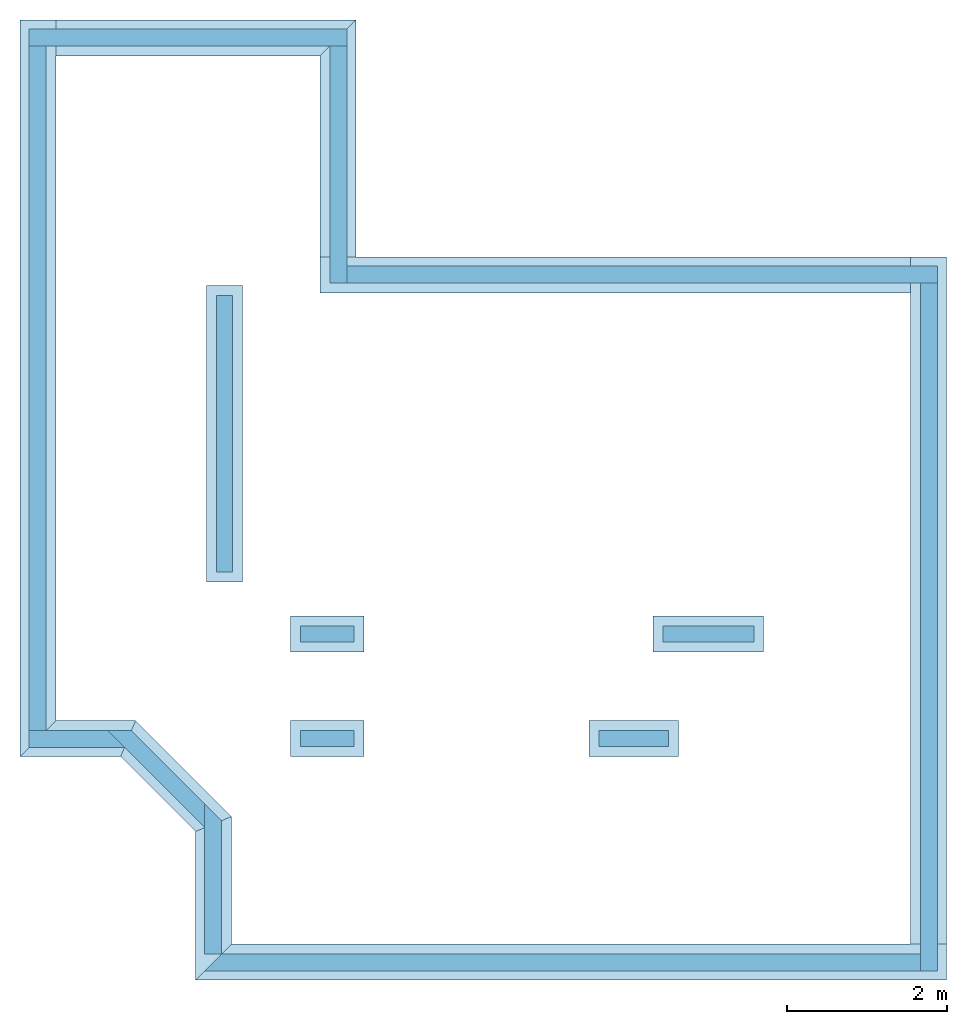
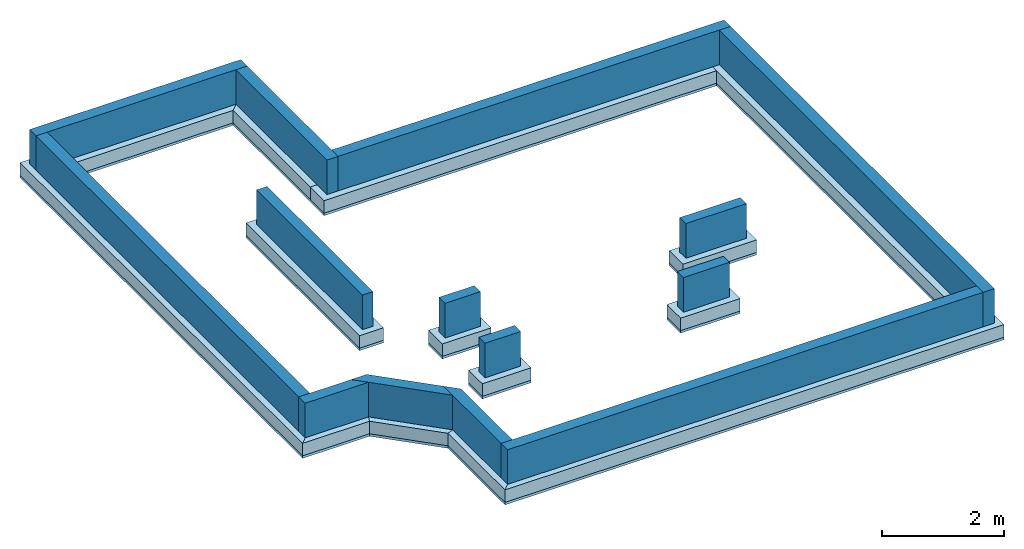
# One storey, part 1 of 2: 14 footings, 14 walls, 6 slabs, 1 opening.
"""IFC2X3 building model written with IfcOpenShell, lengths in centimetres."""

from ifc_helpers import new_model, entity, si_unit, converted_unit, derived_unit, direction, frame, frame_2d, origin, place, context, subcontext, project, spatial, polyline, rectangle, outline, extrude, faceted_brep, material, layer, layer_set, layer_usage, type_object, element, save


model = new_model("IFC2X3")

# Units and contexts
model_context = context("Model", 3, precision=0.001, world=origin(), true_north=direction((6.123031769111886e-17, 1.0)))
body_context = subcontext(model_context, "Body", "Model", "MODEL_VIEW")
ifc_project = project(units=[si_unit("LENGTHUNIT", "METRE", prefix="CENTI"), si_unit("AREAUNIT", "SQUARE_METRE"), si_unit("VOLUMEUNIT", "CUBIC_METRE"), converted_unit("PLANEANGLEUNIT", "DEGREE", entity("IfcRatioMeasure", 0.017453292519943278), si_unit("PLANEANGLEUNIT", "RADIAN"), dimensions=[0, 0, 0, 0, 0, 0, 0]), si_unit("MASSUNIT", "GRAM", prefix="KILO"), derived_unit("MASSDENSITYUNIT", [(si_unit("MASSUNIT", "GRAM", prefix="KILO"), 1), (si_unit("LENGTHUNIT", "METRE"), -3)]), derived_unit("MOMENTOFINERTIAUNIT", [(si_unit("LENGTHUNIT", "METRE"), 4)]), si_unit("TIMEUNIT", "SECOND"), si_unit("FREQUENCYUNIT", "HERTZ"), si_unit("THERMODYNAMICTEMPERATUREUNIT", "DEGREE_CELSIUS"), derived_unit("THERMALTRANSMITTANCEUNIT", [(si_unit("MASSUNIT", "GRAM", prefix="KILO"), 1), (si_unit("THERMODYNAMICTEMPERATUREUNIT", "KELVIN"), -1), (si_unit("TIMEUNIT", "SECOND"), -3)]), derived_unit("VOLUMETRICFLOWRATEUNIT", [(si_unit("LENGTHUNIT", "METRE"), 3), (si_unit("TIMEUNIT", "SECOND"), -1)]), derived_unit("MASSFLOWRATEUNIT", [(si_unit("MASSUNIT", "GRAM", prefix="KILO"), 1), (si_unit("TIMEUNIT", "SECOND"), -1)]), derived_unit("ROTATIONALFREQUENCYUNIT", [(si_unit("TIMEUNIT", "SECOND"), -1)]), si_unit("ELECTRICCURRENTUNIT", "AMPERE"), si_unit("ELECTRICVOLTAGEUNIT", "VOLT"), si_unit("POWERUNIT", "WATT"), si_unit("FORCEUNIT", "NEWTON", prefix="KILO"), si_unit("ILLUMINANCEUNIT", "LUX"), si_unit("LUMINOUSFLUXUNIT", "LUMEN"), si_unit("LUMINOUSINTENSITYUNIT", "CANDELA"), derived_unit("USERDEFINED", [(si_unit("MASSUNIT", "GRAM", prefix="KILO"), -1), (si_unit("LENGTHUNIT", "METRE"), -2), (si_unit("TIMEUNIT", "SECOND"), 3), (si_unit("LUMINOUSFLUXUNIT", "LUMEN"), 1)]), derived_unit("SOUNDPOWERUNIT", [(si_unit("MASSUNIT", "GRAM", prefix="KILO"), 1), (si_unit("LENGTHUNIT", "METRE"), 2), (si_unit("TIMEUNIT", "SECOND"), -3)]), derived_unit("SOUNDPRESSUREUNIT", [(si_unit("MASSUNIT", "GRAM", prefix="KILO"), 1), (si_unit("LENGTHUNIT", "METRE"), -1), (si_unit("TIMEUNIT", "SECOND"), -2)]), derived_unit("LINEARVELOCITYUNIT", [(si_unit("LENGTHUNIT", "METRE"), 1), (si_unit("TIMEUNIT", "SECOND"), -1)]), si_unit("PRESSUREUNIT", "PASCAL"), derived_unit("USERDEFINED", [(si_unit("LENGTHUNIT", "METRE"), -2), (si_unit("MASSUNIT", "GRAM", prefix="KILO"), 1), (si_unit("TIMEUNIT", "SECOND"), -2)]), derived_unit("LINEARFORCEUNIT", [(si_unit("MASSUNIT", "GRAM", prefix="KILO"), 1), (si_unit("LENGTHUNIT", "METRE"), 1), (si_unit("TIMEUNIT", "SECOND"), -2), (si_unit("LENGTHUNIT", "METRE"), -1)]), derived_unit("PLANARFORCEUNIT", [(si_unit("MASSUNIT", "GRAM", prefix="KILO"), 1), (si_unit("LENGTHUNIT", "METRE"), 1), (si_unit("TIMEUNIT", "SECOND"), -2), (si_unit("LENGTHUNIT", "METRE"), -2)])], contexts=[model_context])

# Site, building, storey
site_placement = place(None, frame((1412.1772603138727, -701.9923171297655, 0.0)))
site = spatial("IfcSite", under=ifc_project, at=site_placement, Name="Default", CompositionType="ELEMENT")
building_placement = place(site_placement, origin())
building = spatial("IfcBuilding", under=site, at=building_placement, CompositionType="ELEMENT")
storey_placement = place(building_placement, frame((0.0, 0.0, -98.0)))
storey = spatial("IfcBuildingStorey", under=building, at=storey_placement, Name="0_Fondation", CompositionType="ELEMENT", Elevation=-98.0)

# Footings
ifc_material_1 = material(Name="Maçonnerie - Béton")
footing_1_placement = place(storey_placement, origin())
element("IfcFooting", 1, at=footing_1_placement, inside=storey, material=ifc_material_1, Name="Semelle filante:Semelle 45 x 25", ObjectType="Semelle filante:Semelle 45 x 25", PredefinedType="STRIP_FOOTING", context=body_context, shape_type="SweptSolid", body=[
    extrude(outline(polyline([(-376.4000000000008, -18.0), (-331.3999999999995, -18.0), (519.6000000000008, -18.0), (564.6000000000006, 27.0), (-376.40000000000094, 27.0), (-376.4000000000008, -18.0)])), frame((-1016.0772603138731, -144.50768287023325, -25.0), z_axis=(0.0, 0.0, 1.0), x_axis=(-1.0, 0.0, 0.0)), (0.0, 0.0, 1.0), 25.0),
])
footing_2_placement = place(storey_placement, origin())
element("IfcFooting", 2, at=footing_2_placement, inside=storey, material=ifc_material_1, Name="Semelle filante:Semelle 45 x 25", ObjectType="Semelle filante:Semelle 45 x 25", PredefinedType="STRIP_FOOTING", context=body_context, shape_type="SweptSolid", body=[
    extrude(rectangle(XDim=44.99999999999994, YDim=860.9999999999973, at=frame_2d((4.500000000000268, -77.09999999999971), x_axis=(1.0, 0.0))), frame((-666.6772603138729, 381.0923171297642, -25.0)), (0.0, 0.0, 1.0), 25.0),
])
footing_3_placement = place(storey_placement, origin())
element("IfcFooting", 3, at=footing_3_placement, inside=storey, material=ifc_material_1, Name="Semelle filante:Semelle 45 x 25", ObjectType="Semelle filante:Semelle 45 x 25", PredefinedType="STRIP_FOOTING", context=body_context, shape_type="SweptSolid", body=[
    extrude(rectangle(XDim=44.99999999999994, YDim=740.0, at=frame_2d((-4.500000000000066, -65.00000000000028), x_axis=(1.0, 0.0))), frame((-1119.6772603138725, 716.4923171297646, -25.0), z_axis=(0.0, 0.0, 1.0), x_axis=(0.0, 1.0, 0.0)), (0.0, 0.0, 1.0), 25.0),
])
footing_4_placement = place(storey_placement, origin())
element("IfcFooting", 4, at=footing_4_placement, inside=storey, material=ifc_material_1, Name="Semelle filante:Semelle 45 x 25", ObjectType="Semelle filante:Semelle 45 x 25", PredefinedType="STRIP_FOOTING", context=body_context, shape_type="SweptSolid", body=[
    extrude(outline(polyline([(-92.97413408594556, -61.1543289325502), (-29.33452377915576, -61.154328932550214), (83.65432893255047, 51.834523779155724), (38.65432893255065, 70.4741340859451), (-92.97413408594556, -61.1543289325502)])), frame((-1558.1772603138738, -62.52240149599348, -25.0), z_axis=(0.0, 0.0, 1.0), x_axis=(0.7071067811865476, 0.7071067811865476, 0.0)), (0.0, 0.0, 1.0), 24.999999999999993),
])
footing_5_placement = place(storey_placement, origin())
element("IfcFooting", 5, at=footing_5_placement, inside=storey, material=ifc_material_1, Name="Semelle filante:Semelle 45 x 25", ObjectType="Semelle filante:Semelle 45 x 25", PredefinedType="STRIP_FOOTING", context=body_context, shape_type="SweptSolid", body=[
    extrude(outline(polyline([(-53.315781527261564, -69.9203494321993), (-4.608132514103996, -69.9203494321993), (46.182711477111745, 52.699594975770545), (11.74120256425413, 87.14110388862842), (-53.315781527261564, -69.9203494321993)])), frame((-1611.6919789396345, 77.4775985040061, -25.0), z_axis=(0.0, 0.0, 1.0), x_axis=(-0.38268343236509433, -0.9238795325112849, 0.0)), (0.0, 0.0, 1.0), 24.999999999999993),
])
footing_6_placement = place(storey_placement, origin())
element("IfcFooting", 6, at=footing_6_placement, inside=storey, material=ifc_material_1, Name="Semelle filante:Semelle 45 x 25", ObjectType="Semelle filante:Semelle 45 x 25", PredefinedType="STRIP_FOOTING", context=body_context, shape_type="SweptSolid", body=[
    extrude(outline(polyline([(8.12132034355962, -39.94112549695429), (71.76093065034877, -39.9411254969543), (-17.441125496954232, 49.26093065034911), (-62.441125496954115, 30.621320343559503), (8.12132034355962, -39.94112549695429)])), frame((-1721.6919789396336, 130.99231712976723, -25.0), z_axis=(0.0, 0.0, 1.0), x_axis=(-0.7071067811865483, -0.7071067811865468, 0.0)), (0.0, 0.0, 1.0), 24.999999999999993),
])
footing_7_placement = place(storey_placement, origin())
element("IfcFooting", 7, at=footing_7_placement, inside=storey, material=ifc_material_1, Name="Semelle filante:Semelle 45 x 25", ObjectType="Semelle filante:Semelle 45 x 25", PredefinedType="STRIP_FOOTING", context=body_context, shape_type="SweptSolid", body=[
    extrude(outline(polyline([(-410.6876185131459, -372.503852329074), (-347.04800820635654, -372.503852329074), (241.9719405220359, 216.516096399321), (273.7917456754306, 248.33590155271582), (241.9719405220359, 280.1557067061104), (-410.6876185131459, -372.503852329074)])), frame((-1773.6772603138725, 662.2923171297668, -25.0), z_axis=(0.0, 0.0, 1.0), x_axis=(0.7071067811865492, 0.7071067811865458, 0.0)), (0.0, 0.0, 1.0), 25.0),
])
footing_8_placement = place(storey_placement, origin())
element("IfcFooting", 8, at=footing_8_placement, inside=storey, material=ifc_material_1, Name="Semelle filante:Semelle 45 x 25", ObjectType="Semelle filante:Semelle 45 x 25", PredefinedType="STRIP_FOOTING", context=body_context, shape_type="SweptSolid", body=[
    extrude(outline(polyline([(93.16131842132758, -124.98112357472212), (156.80092872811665, -124.98112357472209), (-109.071220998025, 140.89102615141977), (-140.89102615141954, 109.07122099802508), (93.16131842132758, -124.98112357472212)])), frame((-1578.927260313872, 1008.9923171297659, -25.0), z_axis=(0.0, 0.0, 1.0), x_axis=(0.7071067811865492, 0.7071067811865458, 0.0)), (0.0, 0.0, 1.0), 25.0),
])
footing_9_placement = place(storey_placement, origin())
element("IfcFooting", 9, at=footing_9_placement, inside=storey, material=ifc_material_1, Name="Semelle filante:Semelle 45 x 25", ObjectType="Semelle filante:Semelle 45 x 25", PredefinedType="STRIP_FOOTING", context=body_context, shape_type="SweptSolid", body=[
    extrude(outline(polyline([(-137.25000000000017, -22.499999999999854), (159.74999999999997, -22.499999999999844), (114.74999999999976, 22.500000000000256), (-137.2500000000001, 22.500000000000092), (-137.25000000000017, -22.499999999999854)])), frame((-1402.1772603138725, 871.7423171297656, -25.0), z_axis=(0.0, 0.0, 1.0), x_axis=(0.0, 1.0, 0.0)), (0.0, 0.0, 1.0), 25.0),
])
footing_10_placement = place(storey_placement, origin())
element("IfcFooting", 10, at=footing_10_placement, inside=storey, material=ifc_material_1, Name="Semelle filante:Semelle 45 x 25 refend", ObjectType="Semelle filante:Semelle 45 x 25 refend", PredefinedType="STRIP_FOOTING", context=body_context, shape_type="SweptSolid", body=[
    extrude(rectangle(XDim=91.99999999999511, YDim=45.0, at=frame_2d((0.0, -1.2434497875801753e-14), x_axis=(1.0, 0.0))), frame((-1415.6772603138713, 261.99231712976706, -25.0), z_axis=(0.0, 0.0, 1.0), x_axis=(-1.0, 0.0, 0.0)), (0.0, 0.0, 1.0), 25.0),
])
footing_11_placement = place(storey_placement, origin())
element("IfcFooting", 11, at=footing_11_placement, inside=storey, material=ifc_material_1, Name="Semelle filante:Semelle 45 x 25 refend", ObjectType="Semelle filante:Semelle 45 x 25 refend", PredefinedType="STRIP_FOOTING", context=body_context, shape_type="SweptSolid", body=[
    extrude(rectangle(XDim=91.99999999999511, YDim=45.0, at=frame_2d((0.0, 1.4210854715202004e-14), x_axis=(1.0, 0.0))), frame((-1415.6772603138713, 130.99231712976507, -25.0), z_axis=(0.0, 0.0, 1.0), x_axis=(-1.0, 0.0, 0.0)), (0.0, 0.0, 1.0), 25.0),
])
footing_12_placement = place(storey_placement, origin())
element("IfcFooting", 12, at=footing_12_placement, inside=storey, material=ifc_material_1, Name="Semelle filante:Semelle 45 x 25 refend", ObjectType="Semelle filante:Semelle 45 x 25 refend", PredefinedType="STRIP_FOOTING", context=body_context, shape_type="SweptSolid", body=[
    extrude(rectangle(XDim=111.9999999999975, YDim=45.0, at=frame_2d((0.0, 1.4210854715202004e-14), x_axis=(1.0, 0.0))), frame((-1031.677260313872, 130.99231712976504, -25.0), z_axis=(0.0, 0.0, 1.0), x_axis=(-1.0, 0.0, 0.0)), (0.0, 0.0, 1.0), 25.0),
])
footing_13_placement = place(storey_placement, origin())
element("IfcFooting", 13, at=footing_13_placement, inside=storey, material=ifc_material_1, Name="Semelle filante:Semelle 45 x 25 refend", ObjectType="Semelle filante:Semelle 45 x 25 refend", PredefinedType="STRIP_FOOTING", context=body_context, shape_type="SweptSolid", body=[
    extrude(rectangle(XDim=139.00000000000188, YDim=45.0, at=frame_2d((4.973799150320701e-14, 1.4210854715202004e-14), x_axis=(1.0, 0.0))), frame((-938.1772603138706, 261.9923171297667, -25.0), z_axis=(0.0, 0.0, 1.0), x_axis=(-1.0, 0.0, 0.0)), (0.0, 0.0, 1.0), 25.0),
])
footing_14_placement = place(storey_placement, origin())
element("IfcFooting", 14, at=footing_14_placement, inside=storey, material=ifc_material_1, Name="Semelle filante:Semelle 45 x 25 refend", ObjectType="Semelle filante:Semelle 45 x 25 refend", PredefinedType="STRIP_FOOTING", context=body_context, shape_type="SweptSolid", body=[
    extrude(rectangle(XDim=370.99999999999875, YDim=44.99999999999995, at=frame_2d((-8.526512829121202e-14, -2.1671553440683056e-13), x_axis=(1.0, 0.0))), frame((-1544.1772603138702, 512.9923171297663, -25.0), z_axis=(0.0, 0.0, 1.0), x_axis=(0.0, -1.0, 0.0)), (0.0, 0.0, 1.0), 25.0),
])

# Slab, opening
ifc_material_2 = material(Name="Maçonnerie - Béton(2)")
ifc_layer_1 = layer(ifc_material_2, 5.0)
ifc_layer_set_1 = layer_set([ifc_layer_1], Name="Radier:Béton de propreté 5cm")
ifc_layer_usage_1 = layer_usage(ifc_layer_set_1, "AXIS3", "POSITIVE", 0.0)
slab_type_1 = type_object("IfcSlabType", Name="Radier:Béton de propreté 5cm", PredefinedType="BASESLAB")
slab_1_placement = place(storey_placement, frame((-1800.6772603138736, -171.50768287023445, -30.0)))
slab_1 = element("IfcSlab", 15, at=slab_1_placement, inside=storey, type_object=slab_type_1, material=ifc_layer_usage_1, Name="Radier:Béton de propreté 5cm", ObjectType="Radier:Béton de propreté 5cm", PredefinedType="BASESLAB", context=body_context, shape_type="SweptSolid", body=[
    extrude(outline(polyline([(159.49999999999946, 601.4999999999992), (159.49999999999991, 304.4999999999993), (-580.5000000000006, 304.49999999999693), (-580.4999999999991, -601.5000000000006), (360.50000000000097, -601.4999999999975), (360.5000000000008, -415.34924240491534), (454.34924240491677, -321.49999999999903), (580.5000000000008, -321.4999999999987), (580.4999999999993, 601.5000000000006), (159.49999999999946, 601.4999999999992)])), frame((580.5000000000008, 601.5000000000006, 5.0), z_axis=(0.0, 0.0, -1.0), x_axis=(-1.0, 0.0, 0.0)), (0.0, 0.0, 1.0), 5.0),
])
opening_placement = place(slab_1_placement, frame((416.53226310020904, 553.6433742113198, 5.0)))
element("IfcOpeningElement", 16, at=opening_placement, cuts=slab_1, Name="Radier:Béton de propreté 5cm:2", ObjectType="Opening", context=body_context, shape_type="SweptSolid", body=[
    extrude(outline(polyline([(-604.3566257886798, -40.53226310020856), (-604.3566257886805, -371.53226310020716), (228.6433742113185, -371.5322631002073), (228.64337421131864, -271.7418951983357), (348.8530063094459, -151.53226310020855), (508.64337421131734, -151.53226310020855), (508.64337421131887, 699.4677368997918), (-307.3566257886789, 699.4677368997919), (-307.3566257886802, -40.53226310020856), (-604.3566257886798, -40.53226310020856)])), frame((0.0, 0.0, 0.0), z_axis=(0.0, 0.0, 1.0), x_axis=(0.0, -1.0, 0.0)), (0.0, 0.0, -1.0), 5.0),
])

# Slabs
slab_type_2 = type_object("IfcSlabType", Name="Radier:Béton de propreté 5cm", PredefinedType="BASESLAB")
slab_2_placement = place(storey_placement, frame((-1800.6772603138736, -171.50768287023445, -30.0)))
element("IfcSlab", 17, at=slab_2_placement, inside=storey, type_object=slab_type_2, material=ifc_layer_usage_1, Name="Radier:Béton de propreté 5cm:2", ObjectType="Radier:Béton de propreté 5cm", PredefinedType="BASESLAB", context=body_context, shape_type="SweptSolid", body=[
    extrude(rectangle(XDim=370.99999999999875, YDim=44.999999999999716, at=frame_2d((324.0, 83.0), x_axis=(0.0, -1.0))), frame((580.5000000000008, 601.5000000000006, 5.0), z_axis=(0.0, 0.0, -1.0), x_axis=(-1.0, 0.0, 0.0)), (0.0, 0.0, 1.0), 5.0),
])
slab_type_3 = type_object("IfcSlabType", Name="Radier:Béton de propreté 5cm", PredefinedType="BASESLAB")
slab_3_placement = place(storey_placement, frame((-1800.6772603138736, -171.50768287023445, -30.0)))
element("IfcSlab", 18, at=slab_3_placement, inside=storey, type_object=slab_type_3, material=ifc_layer_usage_1, Name="Radier:Béton de propreté 5cm:3", ObjectType="Radier:Béton de propreté 5cm", PredefinedType="BASESLAB", context=body_context, shape_type="SweptSolid", body=[
    extrude(rectangle(XDim=45.00000000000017, YDim=91.99999999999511, at=frame_2d((195.49999999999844, -168.0), x_axis=(0.0, -1.0))), frame((580.5000000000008, 601.5000000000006, 5.0), z_axis=(0.0, 0.0, -1.0), x_axis=(-1.0, 0.0, 0.0)), (0.0, 0.0, 1.0), 5.0),
])
slab_type_4 = type_object("IfcSlabType", Name="Radier:Béton de propreté 5cm", PredefinedType="BASESLAB")
slab_4_placement = place(storey_placement, frame((-1800.6772603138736, -171.50768287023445, -30.0)))
element("IfcSlab", 19, at=slab_4_placement, inside=storey, type_object=slab_type_4, material=ifc_layer_usage_1, Name="Radier:Béton de propreté 5cm:4", ObjectType="Radier:Béton de propreté 5cm", PredefinedType="BASESLAB", context=body_context, shape_type="SweptSolid", body=[
    extrude(rectangle(XDim=45.000000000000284, YDim=91.99999999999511, at=frame_2d((195.49999999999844, -299.0), x_axis=(0.0, -1.0))), frame((580.5000000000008, 601.5000000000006, 5.0), z_axis=(0.0, 0.0, -1.0), x_axis=(-1.0, 0.0, 0.0)), (0.0, 0.0, 1.0), 5.0),
])
slab_type_5 = type_object("IfcSlabType", Name="Radier:Béton de propreté 5cm", PredefinedType="BASESLAB")
slab_5_placement = place(storey_placement, frame((-1800.6772603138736, -171.50768287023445, -30.0)))
element("IfcSlab", 20, at=slab_5_placement, inside=storey, type_object=slab_type_5, material=ifc_layer_usage_1, Name="Radier:Béton de propreté 5cm:5", ObjectType="Radier:Béton de propreté 5cm", PredefinedType="BASESLAB", context=body_context, shape_type="SweptSolid", body=[
    extrude(rectangle(XDim=45.00000000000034, YDim=111.9999999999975, at=frame_2d((-188.50000000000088, -299.0), x_axis=(0.0, -1.0))), frame((580.5000000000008, 601.5000000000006, 5.0), z_axis=(0.0, 0.0, -1.0), x_axis=(-1.0, 0.0, 0.0)), (0.0, 0.0, 1.0), 5.0),
])
slab_type_6 = type_object("IfcSlabType", Name="Radier:Béton de propreté 5cm", PredefinedType="BASESLAB", material=ifc_layer_set_1)
slab_6_placement = place(storey_placement, frame((-1800.6772603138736, -171.50768287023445, -30.0)))
element("IfcSlab", 21, at=slab_6_placement, inside=storey, type_object=slab_type_6, material=ifc_layer_usage_1, Name="Radier:Béton de propreté 5cm:6", ObjectType="Radier:Béton de propreté 5cm", PredefinedType="BASESLAB", context=body_context, shape_type="SweptSolid", body=[
    extrude(rectangle(XDim=45.0000000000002, YDim=139.00000000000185, at=frame_2d((-282.0, -168.0), x_axis=(0.0, -1.0))), frame((580.5000000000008, 601.5000000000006, 5.0), z_axis=(0.0, 0.0, -1.0), x_axis=(-1.0, 0.0, 0.0)), (0.0, 0.0, 1.0), 5.0),
])

# Walls
ifc_material_3 = material(Name="Protection humidité")
ifc_layer_2 = layer(ifc_material_3, 1.0)
ifc_material_4 = material(Name="Blocs de maçonnerie en béton")
ifc_layer_3 = layer(ifc_material_4, 20.0)
ifc_layer_set_2 = layer_set([ifc_layer_2, ifc_layer_3], Name="Mur de base:Mur de soubassement")
wall_type_1 = type_object("IfcWallType", Name="Mur de base:Mur de soubassement", PredefinedType="STANDARD", material=ifc_layer_set_2)
wall_1_placement = place(storey_placement, frame((-1789.1772603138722, 1009.4923171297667, 0.0)))
element("IfcWall", 22, at=wall_1_placement, inside=storey, type_object=wall_type_1, Name="Mur de base:Mur de soubassement", ObjectType="Mur de base:Mur de soubassement", context=body_context, shape_type="Brep", body=[
    faceted_brep([(0.0, -10.499999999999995, 0.0), (21.0, -10.499999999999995, 0.0), (377.0, -10.499999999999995, 0.0), (398.0, -10.499999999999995, 0.0), (398.0, -10.499999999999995, 69.0), (0.0, -10.499999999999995, 69.0), (398.0, 10.499999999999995, 0.0), (0.0, 10.499999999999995, 0.0), (0.0, 10.499999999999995, 69.0), (398.0, 10.499999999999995, 69.0), (0.0, 9.500000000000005, 0.0), (398.0, 9.500000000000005, 0.0)], [[[0, 1, 2, 3, 4, 5]], [[6, 7, 8, 9]], [[9, 8, 5, 4]], [[1, 0, 10, 11, 3, 2]], [[9, 4, 3, 11, 6]], [[0, 5, 8, 7, 10]], [[7, 6, 11, 10]]]),
])
wall_2_placement = place(storey_placement, frame((-1401.6772603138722, 1018.9923171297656, 0.0), z_axis=(0.0, 0.0, 1.0), x_axis=(0.0, -1.0, 0.0)))
element("IfcWall", 23, at=wall_2_placement, inside=storey, type_object=wall_type_1, Name="Mur de base:Mur de soubassement", ObjectType="Mur de base:Mur de soubassement", context=body_context, shape_type="Brep", body=[
    faceted_brep([(20.0, -10.499999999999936, 0.0), (317.0, -10.499999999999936, 0.0), (317.0, -10.499999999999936, 69.0), (20.0, -10.499999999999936, 69.0), (317.0, 10.500000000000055, 0.0), (296.0, 10.500000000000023, 0.0), (20.0, 10.500000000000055, 0.0), (20.0, 10.500000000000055, 69.0), (317.0, 10.500000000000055, 69.0), (20.0, 9.500000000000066, 0.0), (317.0, 9.500000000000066, 0.0)], [[[0, 1, 2, 3]], [[4, 5, 6, 7, 8]], [[3, 2, 8, 7]], [[1, 0, 9, 10]], [[0, 3, 7, 6, 9]], [[5, 4, 10, 9, 6]], [[2, 1, 10, 4, 8]]]),
])
wall_3_placement = place(storey_placement, frame((-1391.1772603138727, 712.4923171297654, 0.0)))
element("IfcWall", 24, at=wall_3_placement, inside=storey, type_object=wall_type_1, Name="Mur de base:Mur de soubassement", ObjectType="Mur de base:Mur de soubassement", context=body_context, shape_type="Brep", body=[
    faceted_brep([(0.0, -10.499999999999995, 0.0), (719.0, -10.499999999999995, 0.0), (740.0, -10.499999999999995, 0.0), (740.0, -10.499999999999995, 69.0), (0.0, -10.499999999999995, 69.0), (740.0, 10.499999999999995, 0.0), (0.0, 10.499999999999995, 0.0), (0.0, 10.499999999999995, 69.0), (740.0, 10.499999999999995, 69.0), (0.0, 9.500000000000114, 0.0), (740.0, 9.500000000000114, 0.0)], [[[0, 1, 2, 3, 4]], [[5, 6, 7, 8]], [[8, 7, 4, 3]], [[1, 0, 9, 10, 2]], [[0, 4, 7, 6, 9]], [[6, 5, 10, 9]], [[8, 3, 2, 10, 5]]]),
])
wall_4_placement = place(storey_placement, frame((-661.6772603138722, 721.992317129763, 0.0), z_axis=(0.0, 0.0, 1.0), x_axis=(0.0, -1.0, 0.0)))
element("IfcWall", 25, at=wall_4_placement, inside=storey, type_object=wall_type_1, Name="Mur de base:Mur de soubassement", ObjectType="Mur de base:Mur de soubassement", context=body_context, shape_type="Brep", body=[
    faceted_brep([(20.0, -10.499999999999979, 0.0), (861.0, -10.499999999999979, 0.0), (882.0, -10.499999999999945, 0.0), (882.0, -10.499999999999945, 69.0), (20.0, -10.499999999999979, 69.0), (882.0, 10.500000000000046, 0.0), (20.0, 10.500000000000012, 0.0), (20.0, 10.500000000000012, 69.0), (882.0, 10.500000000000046, 69.0), (20.0, 9.500000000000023, 0.0), (882.0, 9.499999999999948, 0.0)], [[[0, 1, 2, 3, 4]], [[5, 6, 7, 8]], [[8, 7, 4, 3]], [[1, 0, 9, 10, 2]], [[0, 4, 7, 6, 9]], [[6, 5, 10, 9]], [[8, 3, 2, 10, 5]]]),
])
wall_5_placement = place(storey_placement, frame((-652.1772603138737, -149.50768287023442, 0.0), z_axis=(0.0, 0.0, 1.0), x_axis=(-1.0, 0.0, 0.0)))
element("IfcWall", 26, at=wall_5_placement, inside=storey, type_object=wall_type_1, Name="Mur de base:Mur de soubassement", ObjectType="Mur de base:Mur de soubassement", context=body_context, shape_type="Brep", body=[
    faceted_brep([(20.0, -10.499999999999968, 0.0), (896.0, -10.499999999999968, 0.0), (917.0, -10.499999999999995, 0.0), (917.0, -10.499999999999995, 69.0), (20.0, -10.499999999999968, 69.0), (917.0, 10.499999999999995, 0.0), (20.0, 10.500000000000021, 0.0), (20.0, 10.500000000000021, 69.0), (917.0, 10.499999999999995, 69.0), (20.0, 9.500000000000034, 0.0), (917.0, 9.500000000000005, 0.0)], [[[0, 1, 2, 3, 4]], [[5, 6, 7, 8]], [[8, 7, 4, 3]], [[1, 0, 9, 10, 2]], [[0, 4, 7, 6, 9]], [[6, 5, 10, 9]], [[8, 3, 2, 10, 5]]]),
])
wall_6_placement = place(storey_placement, frame((-1558.6772603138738, -159.00768287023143, 0.0), z_axis=(0.0, 0.0, 1.0), x_axis=(0.0, 1.0, 0.0)))
element("IfcWall", 27, at=wall_6_placement, inside=storey, type_object=wall_type_1, Name="Mur de base:Mur de soubassement", ObjectType="Mur de base:Mur de soubassement", context=body_context, shape_type="Brep", body=[
    faceted_brep([(20.0, -10.499999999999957, 0.0), (187.11269837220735, -10.499999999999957, 0.0), (187.11269837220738, -10.499999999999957, 69.0), (20.0, -10.499999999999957, 69.0), (208.1126983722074, 10.500000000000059, 0.0), (178.4142135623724, 10.50000000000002, 0.0), (20.0, 10.500000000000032, 0.0), (20.0, 10.500000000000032, 69.0), (208.1126983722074, 10.500000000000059, 69.0), (20.0, 9.500000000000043, 0.0), (207.1126983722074, 9.50000000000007, 0.0)], [[[0, 1, 2, 3]], [[4, 5, 6, 7, 8]], [[3, 2, 8, 7]], [[1, 0, 9, 10]], [[0, 3, 7, 6, 9]], [[5, 4, 10, 9, 6]], [[2, 1, 10, 4, 8]]]),
])
wall_7_placement = place(storey_placement, frame((-1561.752639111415, 26.831151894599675, 0.0), z_axis=(0.0, 0.0, 1.0), x_axis=(-0.7071067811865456, 0.7071067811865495, 0.0)))
element("IfcWall", 28, at=wall_7_placement, inside=storey, type_object=wall_type_1, Name="Mur de base:Mur de soubassement", ObjectType="Mur de base:Mur de soubassement", context=body_context, shape_type="Brep", body=[
    faceted_brep([(21.0, -10.499999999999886, 0.0), (150.94826817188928, -10.49999999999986, 0.0), (150.94826817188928, -10.49999999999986, 69.0), (21.0, -10.49999999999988, 69.0), (171.9482681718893, 10.50000000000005, 0.0), (142.2497833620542, 10.500000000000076, 0.0), (0.0, 10.500000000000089, 0.0), (0.0, 10.500000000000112, 69.0), (171.9482681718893, 10.500000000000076, 69.0), (1.0, 9.500000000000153, 0.0), (170.94826817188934, 9.500000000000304, 0.0)], [[[0, 1, 2, 3]], [[4, 5, 6, 7, 8]], [[3, 2, 8, 7]], [[1, 0, 9, 10]], [[0, 3, 7, 6, 9]], [[5, 4, 10, 9, 6]], [[2, 1, 10, 4, 8]]]),
])
wall_8_placement = place(storey_placement, frame((-1669.7630467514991, 130.49231712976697, 0.0), z_axis=(0.0, 0.0, 1.0), x_axis=(-1.0, 0.0, 0.0)))
element("IfcWall", 29, at=wall_8_placement, inside=storey, type_object=wall_type_1, Name="Mur de base:Mur de soubassement", ObjectType="Mur de base:Mur de soubassement", context=body_context, shape_type="Brep", body=[
    faceted_brep([(21.0, -10.500000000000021, 0.0), (98.41421356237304, -10.499999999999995, 0.0), (119.41421356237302, -10.500000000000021, 0.0), (119.41421356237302, -10.500000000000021, 69.0), (21.0, -10.500000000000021, 69.0), (119.41421356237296, 10.499999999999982, 0.0), (0.0, 10.499999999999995, 0.0), (0.0, 10.499999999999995, 69.0), (119.41421356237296, 10.499999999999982, 69.0), (1.0, 9.500000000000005, 0.0), (119.41421356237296, 9.499999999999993, 0.0)], [[[0, 1, 2, 3, 4]], [[5, 6, 7, 8]], [[8, 7, 4, 3]], [[1, 0, 9, 10, 2]], [[0, 4, 7, 6, 9]], [[6, 5, 10, 9]], [[8, 3, 2, 10, 5]]]),
])
wall_9_placement = place(storey_placement, frame((-1778.6772603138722, 120.99231712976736, 0.0), z_axis=(0.0, 0.0, 1.0), x_axis=(0.0, 1.0, 0.0)))
element("IfcWall", 30, at=wall_9_placement, inside=storey, type_object=wall_type_1, Name="Mur de base:Mur de soubassement", ObjectType="Mur de base:Mur de soubassement", context=body_context, shape_type="Brep", body=[
    faceted_brep([(20.0, -10.499999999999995, 0.0), (878.0, -10.499999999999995, 0.0), (878.0, -10.499999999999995, 69.0), (20.0, -10.499999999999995, 69.0), (878.0, 10.499999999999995, 0.0), (20.0, 10.499999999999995, 0.0), (20.0, 10.499999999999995, 69.0), (878.0, 10.499999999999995, 69.0), (20.0, 9.500000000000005, 0.0), (878.0, 9.500000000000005, 0.0)], [[[0, 1, 2, 3]], [[4, 5, 6, 7]], [[3, 2, 7, 6]], [[1, 0, 8, 9]], [[7, 2, 1, 9, 4]], [[0, 3, 6, 5, 8]], [[5, 4, 9, 8]]]),
])
ifc_layer_4 = layer(ifc_material_4, 20.0)
ifc_layer_set_3 = layer_set([ifc_layer_4], Name="Mur de base:Mur de soubassement refend")
ifc_layer_usage_2 = layer_usage(ifc_layer_set_3, "AXIS2", "NEGATIVE", 10.0)
wall_type_2 = type_object("IfcWallType", Name="Mur de base:Mur de soubassement refend", PredefinedType="STANDARD", material=ifc_layer_set_3)
wall_10_placement = place(storey_placement, frame((-881.1772603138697, 261.99231712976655, 0.0), z_axis=(0.0, 0.0, 1.0), x_axis=(-1.0, 0.0, 0.0)))
element("IfcWallStandardCase", 31, at=wall_10_placement, inside=storey, type_object=wall_type_2, material=ifc_layer_usage_2, Name="Mur de base:Mur de soubassement refend", ObjectType="Mur de base:Mur de soubassement refend", context=body_context, shape_type="SweptSolid", body=[
    extrude(rectangle(XDim=114.0000000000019, YDim=20.0, at=frame_2d((57.000000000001, 0.0), x_axis=(-1.0, 0.0))), origin(), (0.0, 0.0, 1.0), 69.0),
])
ifc_layer_usage_3 = layer_usage(ifc_layer_set_3, "AXIS2", "NEGATIVE", 10.0)
wall_11_placement = place(storey_placement, frame((-988.1772603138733, 130.9923171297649, 0.0), z_axis=(0.0, 0.0, 1.0), x_axis=(-1.0, 0.0, 0.0)))
element("IfcWallStandardCase", 32, at=wall_11_placement, inside=storey, type_object=wall_type_2, material=ifc_layer_usage_3, Name="Mur de base:Mur de soubassement refend", ObjectType="Mur de base:Mur de soubassement refend", context=body_context, shape_type="SweptSolid", body=[
    extrude(rectangle(XDim=86.99999999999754, YDim=20.0, at=frame_2d((43.49999999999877, 0.0), x_axis=(-1.0, 0.0))), origin(), (0.0, 0.0, 1.0), 69.0),
])
ifc_layer_usage_4 = layer_usage(ifc_layer_set_3, "AXIS2", "NEGATIVE", 10.0)
wall_12_placement = place(storey_placement, frame((-1382.1772603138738, 130.99231712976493, 0.0), z_axis=(0.0, 0.0, 1.0), x_axis=(-1.0, 0.0, 0.0)))
element("IfcWallStandardCase", 33, at=wall_12_placement, inside=storey, type_object=wall_type_2, material=ifc_layer_usage_4, Name="Mur de base:Mur de soubassement refend", ObjectType="Mur de base:Mur de soubassement refend", context=body_context, shape_type="SweptSolid", body=[
    extrude(rectangle(XDim=66.99999999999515, YDim=20.0, at=frame_2d((33.49999999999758, 0.0), x_axis=(-1.0, 0.0))), origin(), (0.0, 0.0, 1.0), 69.00000000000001),
])
ifc_layer_usage_5 = layer_usage(ifc_layer_set_3, "AXIS2", "NEGATIVE", 10.0)
wall_13_placement = place(storey_placement, frame((-1382.1772603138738, 261.99231712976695, 0.0), z_axis=(0.0, 0.0, 1.0), x_axis=(-1.0, 0.0, 0.0)))
element("IfcWallStandardCase", 34, at=wall_13_placement, inside=storey, type_object=wall_type_2, material=ifc_layer_usage_5, Name="Mur de base:Mur de soubassement refend", ObjectType="Mur de base:Mur de soubassement refend", context=body_context, shape_type="SweptSolid", body=[
    extrude(rectangle(XDim=66.99999999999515, YDim=20.0, at=frame_2d((33.49999999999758, 0.0), x_axis=(-1.0, 0.0))), origin(), (0.0, 0.0, 1.0), 69.0),
])
ifc_layer_usage_6 = layer_usage(ifc_layer_set_3, "AXIS2", "NEGATIVE", 10.0)
wall_14_placement = place(storey_placement, frame((-1544.17726031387, 685.9923171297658, 0.0), z_axis=(0.0, 0.0, 1.0), x_axis=(0.0, -1.0, 0.0)))
element("IfcWallStandardCase", 35, at=wall_14_placement, inside=storey, type_object=wall_type_2, material=ifc_layer_usage_6, Name="Mur de base:Mur de soubassement refend", ObjectType="Mur de base:Mur de soubassement refend", context=body_context, shape_type="SweptSolid", body=[
    extrude(rectangle(XDim=345.9999999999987, YDim=20.0, at=frame_2d((172.99999999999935, 1.270095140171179e-13), x_axis=(-1.0, 0.0))), origin(), (0.0, 0.0, 1.0), 69.0),
])

save(model, "model.ifc")
